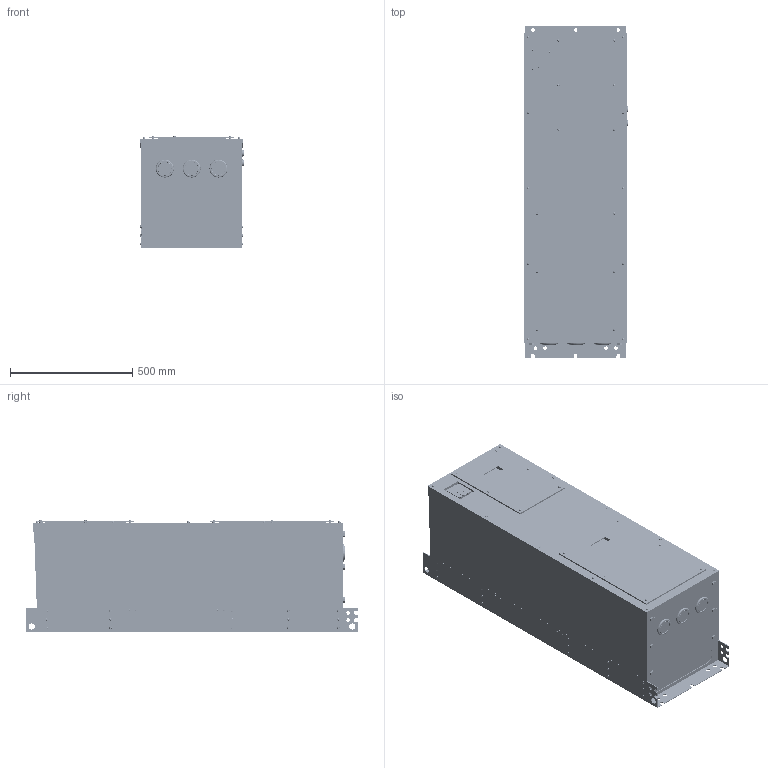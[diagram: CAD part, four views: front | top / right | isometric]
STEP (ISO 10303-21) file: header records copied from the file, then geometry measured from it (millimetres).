
FILE_DESCRIPTION((''),'2;1');
FILE_NAME('3D-INV-A8-09_04_ASM','2015-03-12T',('KF22000'),(''),'PRO/ENGINEER BY PARAMETRIC TECHNOLOGY CORPORATION, 2014090','PRO/ENGINEER BY PARAMETRIC TECHNOLOGY CORPORATION, 2014090','');
FILE_SCHEMA(('CONFIG_CONTROL_DESIGN'));
Products named in the file (32): 3D-WAKU_C2-A8-09_04-01; 3D-WAKU-A8-09_04_ASM; 3D-FAN-3610VL-05W-B59-BQ2; 3D-SW-M4X32-A8; 3D-FAN_ASSY-A8-09_04_ASM; 3D-COVER_FAN-A8-09_04; 3D-COVER_FAN_ASSY-A8-09_04_ASM; 3D-FAN_BKT_TE-A8-09_04; 3D-SWPWPNAM4X10_S902N034-A8; 3D-FAN_TE_ASSY-A8-09_04_ASM; 3D-FAN_CA_ASSY-A8-09_04_ASM; 3D-DOT_TE_TAN-A8-09_04; 3D-M10X30; 3D-TE_BOLT_ASSY-A8-09_04_ASM; 3D-TA-A8; 3D-A8-TA_ASM; 3D-BOLT-M12X25; 3D-BOLT_ASSY-M12X25-A8-09_04_ASM; 3D-GROM_C-30-SG-64A-EP-UL; 3D-GROM_ASSY-64A-A8-09_04_ASM; 3D-GROM_C-30-SG-22A-A8-09_02; 3D-GROM_ASSY-22A-A8-09_04_ASM; 3D-COVER_ASSY-A8-09_04-01; 3D-COVER_ASSY-A8-09_04-01_ASM; 3D-COVER_TE_ASSY-A8-09_04; 3D-COVER_TE_ASSY-A8-09_04_ASM; 3D-COVER_CA_ASSY-A8-09_04; 3D-COVER_CA_ASSY-A8-09_04_ASM; 3D-DU-IP55-A8; 3D-TORX_ASSY-M5-L20; 3D-TORX_ASSY-M5-L20_ASM; 3D-INV-A8-09_04_ASM
Assembly tree (88 placements, depth 3):
  3D-INV-A8-09_04_ASM
    3D-WAKU-A8-09_04_ASM
      3D-WAKU_C2-A8-09_04-01
    3D-FAN_ASSY-A8-09_04_ASM
      3D-FAN-3610VL-05W-B59-BQ2  x3
      3D-SW-M4X32-A8  x4
    3D-COVER_FAN_ASSY-A8-09_04_ASM
      3D-COVER_FAN-A8-09_04
      3D-SW-M4X32-A8  x2
    3D-FAN_TE_ASSY-A8-09_04_ASM
      3D-FAN_BKT_TE-A8-09_04
      3D-FAN-3610VL-05W-B59-BQ2
      3D-SW-M4X32-A8  x2
      3D-SWPWPNAM4X10_S902N034-A8  x4
    3D-FAN_CA_ASSY-A8-09_04_ASM
      3D-FAN-3610VL-05W-B59-BQ2
      3D-SW-M4X32-A8  x2
    3D-DOT_TE_TAN-A8-09_04
    3D-TE_BOLT_ASSY-A8-09_04_ASM
      3D-M10X30  x9
    3D-M10X30  x2
    3D-A8-TA_ASM
      3D-TA-A8
    3D-BOLT_ASSY-M12X25-A8-09_04_ASM
      3D-BOLT-M12X25  x6
    3D-GROM_ASSY-64A-A8-09_04_ASM
      3D-GROM_C-30-SG-64A-EP-UL  x3
    3D-GROM_ASSY-22A-A8-09_04_ASM
      3D-GROM_C-30-SG-22A-A8-09_02  x4
    3D-COVER_ASSY-A8-09_04-01_ASM
      3D-COVER_ASSY-A8-09_04-01
    3D-COVER_TE_ASSY-A8-09_04_ASM
      3D-COVER_TE_ASSY-A8-09_04
    3D-COVER_CA_ASSY-A8-09_04_ASM
      3D-COVER_CA_ASSY-A8-09_04
    3D-DU-IP55-A8
    3D-TORX_ASSY-M5-L20_ASM  x22
      3D-TORX_ASSY-M5-L20
Bounding box: 424.17 x 1360 x 461.85 mm (x, y, z)
Volume: 178927491.1 mm3; surface area: 6158028.2 mm2
Topology: 74 solids, 159 shells, 8391 faces, 21229 edges, 13718 vertices
Faces by surface type: plane 5334, cylinder 2303, torus 256, cone 250, sphere 144, bspline 104
Entity records: 215411 total; most frequent: CARTESIAN_POINT 37966, DIRECTION 36890, ORIENTED_EDGE 36070, EDGE_CURVE 18035, VECTOR 13320, LINE 13320, VERTEX_POINT 11804, AXIS2_PLACEMENT_3D 11785
